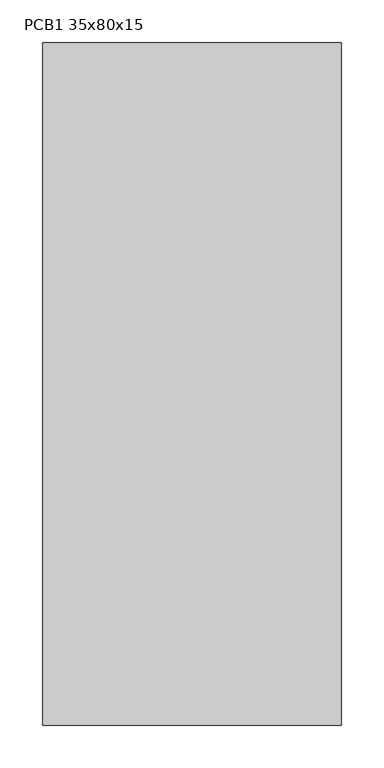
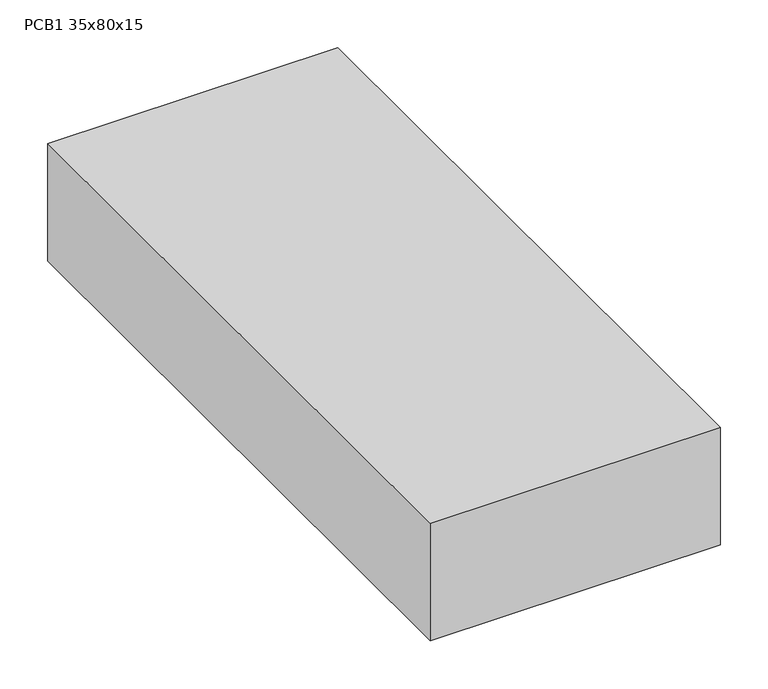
"""IFC4 building model written with IfcOpenShell, lengths in millimetres: proxy geometry, TABLERO ELECTRICO DE SUPERFICIE : PCB1 35x80x15."""

from ifc_helpers import new_model, si_unit, origin, origin_with_axes, place, context, project, spatial, polyline, outline, extrude, source, transform, mapped, element, save


def pcb1_35x80x15_517f87f7(model_context):
    return source(origin(), model_context, "Body", "SweptSolid", [
        extrude(outline(polyline([(175.0, 0.0), (175.0, -800.0), (-175.0, -800.0), (-175.0, 0.0), (175.0, 0.0)])), origin_with_axes(), (0.0, 0.0, 1.0), 150.0),
    ])


if __name__ == "__main__":
    model = new_model("IFC4")
    model_context = context("Model", 3, world=origin())
    ifc_project = project(units=[si_unit("LENGTHUNIT", "METRE", prefix="MILLI")], contexts=[model_context])
    site = spatial("IfcSite", under=ifc_project)
    building = spatial("IfcBuilding", under=site)
    placement = place(None, origin())
    pcb1_35x80x15_shape = pcb1_35x80x15_517f87f7(model_context)
    element("IfcBuildingElementProxy", 1, Name="TABLERO ELECTRICO DE SUPERFICIE : PCB1 35x80x15", ObjectType="TABLERO ELECTRICO DE SUPERFICIE : PCB1 35x80x15", at=placement, inside=building, context=model_context, shape_type="MappedRepresentation", body=[
        mapped(pcb1_35x80x15_shape, transform((0.0, 0.0, 0.0), x_axis=(1.0, 0.0, 0.0), y_axis=(0.0, 1.0, 0.0), z_axis=(0.0, 0.0, 1.0))),
    ])
    save(model, "model.ifc")
